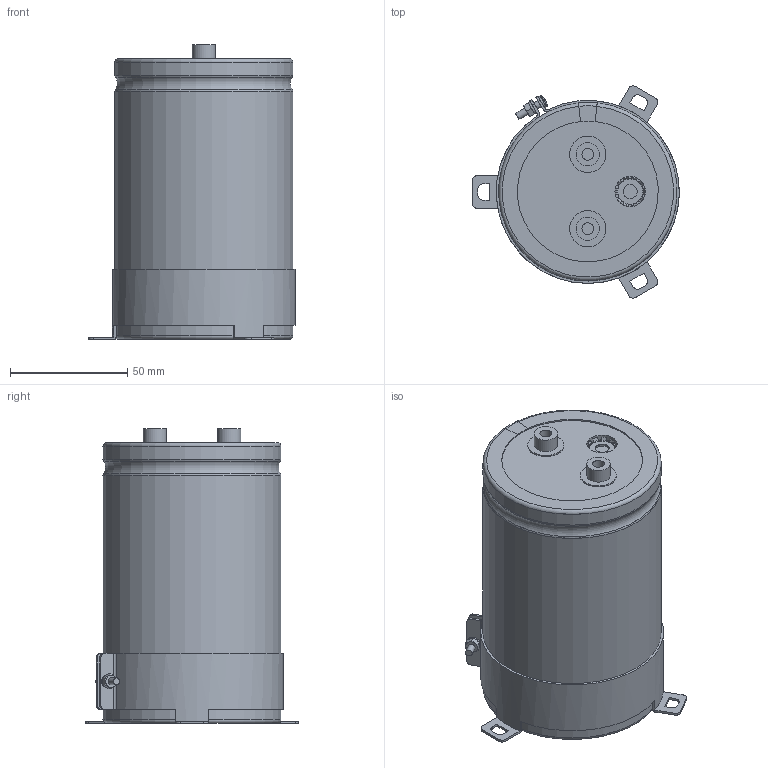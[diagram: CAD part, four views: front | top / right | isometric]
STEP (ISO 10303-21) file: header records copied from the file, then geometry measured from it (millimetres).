
FILE_DESCRIPTION(/* description */ (''),/* implementation_level */ '2;1');
FILE_NAME(/* name */ '76.2x120_Screw.stp',/* time_stamp */ '2017-09-17T13:25:47+09:00',/* author */ (''),/* organization */ (''),/* preprocessor_version */ 'ST-DEVELOPER v16',/* originating_system */ 'SIEMENS PLM Software NX 11.0',/* authorisation */ '');
FILE_SCHEMA (('AUTOMOTIVE_DESIGN { 1 0 10303 214 3 1 1 1 }'));
Length unit declared in the file: millimetre
Products named in the file (1): 76.2x120_Screw
Bounding box: 88.3 x 90.75 x 126 mm (x, y, z)
Volume: 549630.7 mm3; surface area: 116263.7 mm2
Topology: 9 solids, 9 shells, 259 faces, 642 edges, 413 vertices
Faces by surface type: plane 112, cylinder 66, torus 49, cone 31, sphere 1
Full cylindrical faces by diameter (mm): 3 x5, 5 x2, 5.5 x2, 6 x4, 8 x1, 10 x2, 13 x2, 15.5 x2, 75 x2
Entity records: 8534 total; most frequent: CARTESIAN_POINT 2182, DIRECTION 1296, ORIENTED_EDGE 1214, EDGE_CURVE 607, AXIS2_PLACEMENT_3D 541, VERTEX_POINT 408, EDGE_LOOP 317, CIRCLE 281
